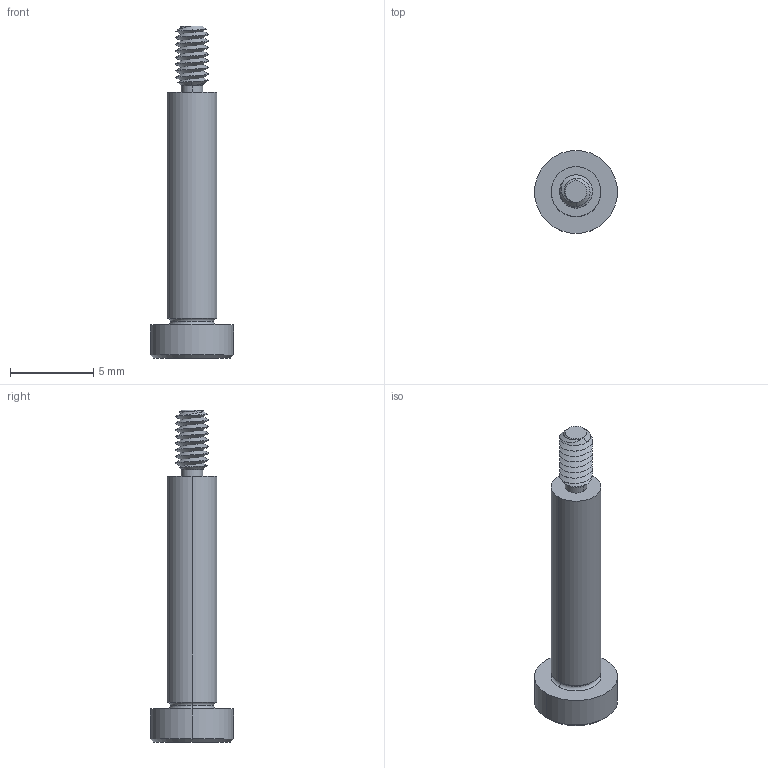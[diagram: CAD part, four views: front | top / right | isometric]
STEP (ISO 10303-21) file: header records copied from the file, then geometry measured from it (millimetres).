
FILE_DESCRIPTION (( 'STEP AP203' ), '1' );
FILE_NAME ('P0130.030-014-B2.step', '2021-11-09T20:56:58', ( '' ), ( '' ), 'SwSTEP 2.0', 'SolidWorks 2019', '' );
FILE_SCHEMA (( 'CONFIG_CONTROL_DESIGN' ));
Length unit declared in the file: millimetre
Products named in the file (1): P0130.030-014-B2
Bounding box: 5 x 5 x 20 mm (x, y, z)
Volume: 142.2 mm3; surface area: 248.1 mm2
Topology: 1 solids, 1 shells, 58 faces, 136 edges, 81 vertices
Faces by surface type: cylinder 22, plane 16, cone 14, torus 4, bspline 2
Entity records: 2452 total; most frequent: CARTESIAN_POINT 1166, ORIENTED_EDGE 268, DIRECTION 241, EDGE_CURVE 134, AXIS2_PLACEMENT_3D 97, VERTEX_POINT 81, EDGE_LOOP 61, ADVANCED_FACE 58
